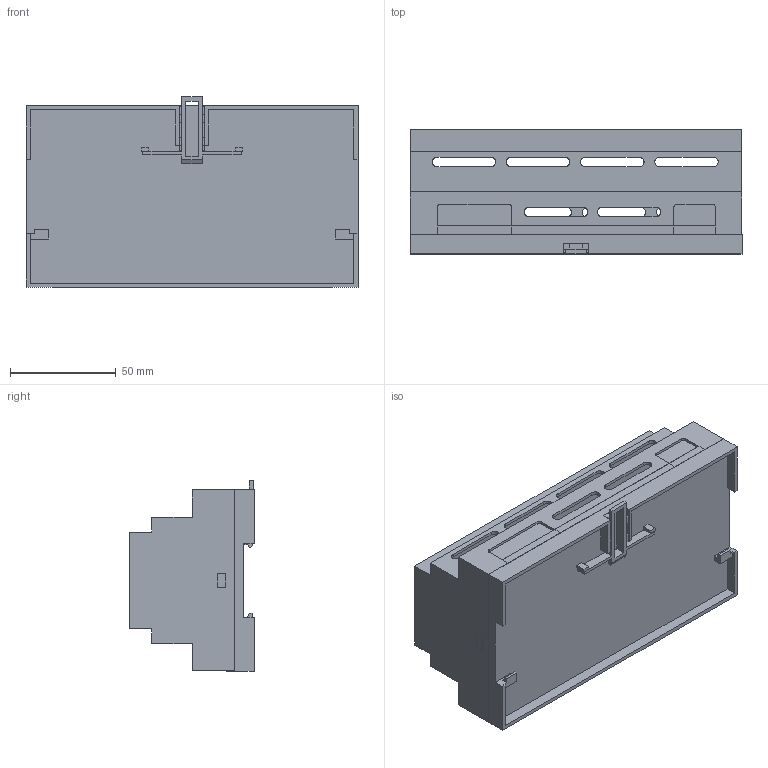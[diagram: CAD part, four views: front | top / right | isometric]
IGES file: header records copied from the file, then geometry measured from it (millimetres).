
Global section: file name: No Iges File Name specified; native system: Autodesk Inventor 2013; preprocessor: AutoDesk Inventor Iges Exporter R2013; author: lzuniga; date: 20130930.142955; units: inch
Bounding box: 156.97 x 58.8 x 89.92 mm (x, y, z)
Volume: 192595.9 mm3; surface area: 97785.1 mm2
Topology: 1 solids, 1 shells, 830 faces, 2227 edges, 1480 vertices
Faces by surface type: bspline 830
